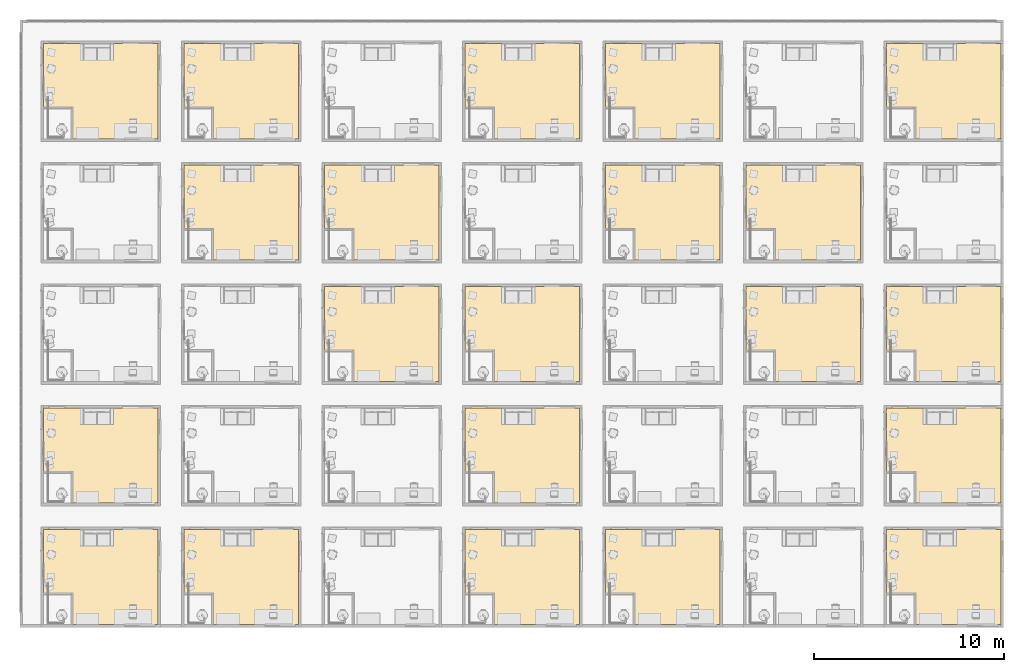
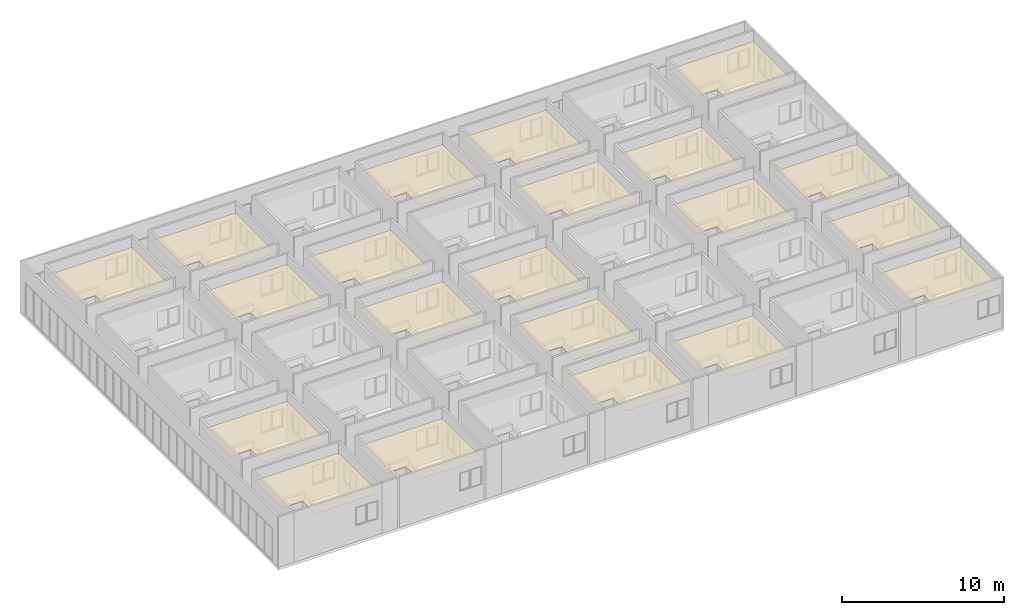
# One storey, part 13 of 72: 21 coverings.
"""IFC4 building model written with IfcOpenShell, lengths in centimetres."""

from ifc_helpers import new_model, entity, si_unit, converted_unit, derived_unit, direction, frame, origin, place, context, subcontext, project, spatial, polygons, type_object, element, save


model = new_model("IFC4")

# Units and contexts
model_context = context("Model", 3, precision=0.001, world=origin(), true_north=direction((6.123233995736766e-17, 1.0)))
body_context = subcontext(model_context, "Body", "Model", "MODEL_VIEW")
ifc_project = project(units=[si_unit("LENGTHUNIT", "METRE", prefix="CENTI"), si_unit("AREAUNIT", "SQUARE_METRE"), si_unit("VOLUMEUNIT", "CUBIC_METRE"), derived_unit("THERMALTRANSMITTANCEUNIT", [(si_unit("MASSUNIT", "GRAM", prefix="KILO"), 1), (si_unit("THERMODYNAMICTEMPERATUREUNIT", "KELVIN"), -1), (si_unit("TIMEUNIT", "SECOND"), -3)]), converted_unit("PLANEANGLEUNIT", "DEGREE", entity("IfcPlaneAngleMeasure", 0.017453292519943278), si_unit("PLANEANGLEUNIT", "RADIAN"), dimensions=[0, 0, 0, 0, 0, 0, 0]), derived_unit("MASSDENSITYUNIT", [(si_unit("MASSUNIT", "GRAM", prefix="KILO"), 1), (si_unit("LENGTHUNIT", "METRE"), -3)]), derived_unit("VAPORPERMEABILITYUNIT", [(si_unit("LENGTHUNIT", "METRE"), -1), (si_unit("TIMEUNIT", "SECOND"), 1)]), derived_unit("USERDEFINED", [(si_unit("MASSUNIT", "GRAM", prefix="KILO"), 1), (si_unit("TIMEUNIT", "SECOND"), -3), (si_unit("LENGTHUNIT", "METRE"), 3), (si_unit("ELECTRICCURRENTUNIT", "AMPERE"), -2)]), derived_unit("SPECIFICHEATCAPACITYUNIT", [(si_unit("THERMODYNAMICTEMPERATUREUNIT", "KELVIN"), -1), (si_unit("LENGTHUNIT", "METRE"), 2), (si_unit("TIMEUNIT", "SECOND"), -2)]), derived_unit("THERMALCONDUCTANCEUNIT", [(si_unit("MASSUNIT", "GRAM", prefix="KILO"), 1), (si_unit("THERMODYNAMICTEMPERATUREUNIT", "KELVIN"), -1), (si_unit("TIMEUNIT", "SECOND"), -3), (si_unit("LENGTHUNIT", "METRE"), 1)]), si_unit("PRESSUREUNIT", "PASCAL"), derived_unit("MODULUSOFELASTICITYUNIT", [(si_unit("MASSUNIT", "GRAM", prefix="KILO"), 1), (si_unit("LENGTHUNIT", "METRE"), -1), (si_unit("TIMEUNIT", "SECOND"), -2)]), derived_unit("THERMALEXPANSIONCOEFFICIENTUNIT", [(si_unit("THERMODYNAMICTEMPERATUREUNIT", "KELVIN"), -1)])], contexts=[model_context])

# Site, building, storey
site_placement = place(None, origin())
site = spatial("IfcSite", under=ifc_project, at=site_placement, Name="Default", CompositionType="ELEMENT")
building_placement = place(site_placement, origin())
building = spatial("IfcBuilding", under=site, at=building_placement, Name="IDS Escape Game Building", CompositionType="ELEMENT")
storey_placement = place(building_placement, frame((0.0, 0.0, 800.0)))
storey = spatial("IfcBuildingStorey", under=building, at=storey_placement, Name="02_Second Floor", CompositionType="ELEMENT", Elevation=800.0)

# Coverings
covering_type = type_object("IfcCoveringType", Name="Basic Ceiling:ARC_45_CEI_SB_PLxx_gen_BERSnl", PredefinedType="CEILING")
for number, where, name in (
    (1, (7.0, 13.0, 300.0), "Basic Ceiling:ARC_45_CEI_SB_PLxx_gen_BERSnl"),
    (2, (745.0, 13.0, 300.0), "Basic Ceiling:ARC_45_CEI_SB_PLxx_gen_BERSnl"),
):
    element("IfcCovering", number, at=place(storey_placement, frame(where)), inside=storey, type_object=covering_type, Name=name, ObjectType="Basic Ceiling:ARC_45_CEI_SB_PLxx_gen_BERSnl", PredefinedType="CEILING", context=body_context, shape_type="Tessellation", body=[
        polygons([(600.0, 500.0, 0.0), (0.0, 500.0, 0.0), (0.0, 158.00000000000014, 0.0), (144.99999999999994, 158.00000000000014, 0.0), (144.99999999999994, 0.0, 0.0), (600.0, 0.0, 0.0)], [[[1, 2, 3, 4, 5, 6]]], closed=False),
    ])
for number, where, name in (
    (3, (2221.0, 13.0, 300.0), "Basic Ceiling:ARC_45_CEI_SB_PLxx_gen_BERSnl"),
    (4, (2959.0, 13.0, 300.0), "Basic Ceiling:ARC_45_CEI_SB_PLxx_gen_BERSnl"),
):
    element("IfcCovering", number, at=place(storey_placement, frame(where)), inside=storey, type_object=covering_type, Name=name, ObjectType="Basic Ceiling:ARC_45_CEI_SB_PLxx_gen_BERSnl", PredefinedType="CEILING", context=body_context, shape_type="Tessellation", body=[
        polygons([(600.0000000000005, 500.0, 0.0), (8.662937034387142e-13, 500.0, 0.0), (4.331468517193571e-13, 158.00000000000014, 0.0), (145.00000000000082, 158.00000000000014, 0.0), (145.00000000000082, 0.0, 0.0), (600.0000000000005, 0.0, 0.0)], [[[1, 2, 3, 4, 5, 6]]], closed=False),
    ])
covering_1_placement = place(storey_placement, frame((4435.0, 13.0, 300.0)))
element("IfcCovering", 5, at=covering_1_placement, inside=storey, type_object=covering_type, Name="Basic Ceiling:ARC_45_CEI_SB_PLxx_gen_BERSnl", ObjectType="Basic Ceiling:ARC_45_CEI_SB_PLxx_gen_BERSnl", PredefinedType="CEILING", context=body_context, shape_type="Tessellation", body=[
    polygons([(600.0000000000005, 500.0, 0.0), (0.0, 500.0, 0.0), (0.0, 158.00000000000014, 0.0), (144.99999999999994, 158.00000000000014, 0.0), (144.99999999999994, 0.0, 0.0), (600.0000000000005, 0.0, 0.0)], [[[1, 2, 3, 4, 5, 6]]], closed=False),
])
covering_2_placement = place(storey_placement, frame((7.0, 651.0, 300.0)))
element("IfcCovering", 6, at=covering_2_placement, inside=storey, type_object=covering_type, Name="Basic Ceiling:ARC_45_CEI_SB_PLxx_gen_BERSnl", ObjectType="Basic Ceiling:ARC_45_CEI_SB_PLxx_gen_BERSnl", PredefinedType="CEILING", context=body_context, shape_type="Tessellation", body=[
    polygons([(600.0, 499.99999999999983, 0.0), (0.0, 499.99999999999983, 0.0), (0.0, 157.99999999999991, 0.0), (145.0, 157.99999999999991, 0.0), (145.0, -1.0828671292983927e-13, 0.0), (600.0, -1.0828671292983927e-13, 0.0)], [[[1, 2, 3, 4, 5, 6]]], closed=False),
])
covering_3_placement = place(storey_placement, frame((2221.0, 651.0, 300.0)))
element("IfcCovering", 7, at=covering_3_placement, inside=storey, type_object=covering_type, Name="Basic Ceiling:ARC_45_CEI_SB_PLxx_gen_BERSnl", ObjectType="Basic Ceiling:ARC_45_CEI_SB_PLxx_gen_BERSnl", PredefinedType="CEILING", context=body_context, shape_type="Tessellation", body=[
    polygons([(600.0000000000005, 499.99999999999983, 0.0), (8.662937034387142e-13, 499.99999999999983, 0.0), (4.331468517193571e-13, 157.99999999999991, 0.0), (145.00000000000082, 157.99999999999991, 0.0), (145.00000000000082, -1.0828671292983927e-13, 0.0), (600.0000000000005, -1.0828671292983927e-13, 0.0)], [[[1, 2, 3, 4, 5, 6]]], closed=False),
])
covering_4_placement = place(storey_placement, frame((4435.0, 651.0, 300.0)))
element("IfcCovering", 8, at=covering_4_placement, inside=storey, type_object=covering_type, Name="Basic Ceiling:ARC_45_CEI_SB_PLxx_gen_BERSnl", ObjectType="Basic Ceiling:ARC_45_CEI_SB_PLxx_gen_BERSnl", PredefinedType="CEILING", context=body_context, shape_type="Tessellation", body=[
    polygons([(600.0000000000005, 499.99999999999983, 0.0), (0.0, 499.99999999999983, 0.0), (0.0, 157.99999999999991, 0.0), (144.99999999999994, 157.99999999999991, 0.0), (144.99999999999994, -1.0828671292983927e-13, 0.0), (600.0000000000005, -1.0828671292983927e-13, 0.0)], [[[1, 2, 3, 4, 5, 6]]], closed=False),
])
covering_5_placement = place(storey_placement, frame((1483.0, 1289.0, 300.0)))
element("IfcCovering", 9, at=covering_5_placement, inside=storey, type_object=covering_type, Name="Basic Ceiling:ARC_45_CEI_SB_PLxx_gen_BERSnl", ObjectType="Basic Ceiling:ARC_45_CEI_SB_PLxx_gen_BERSnl", PredefinedType="CEILING", context=body_context, shape_type="Tessellation", body=[
    polygons([(600.0000000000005, 500.0, 0.0), (2.1657342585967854e-13, 500.0, 0.0), (2.1657342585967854e-13, 158.00000000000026, 0.0), (145.00000000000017, 158.00000000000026, 0.0), (145.00000000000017, 0.0, 0.0), (600.0000000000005, 0.0, 0.0)], [[[1, 2, 3, 4, 5, 6]]], closed=False),
])
covering_6_placement = place(storey_placement, frame((2221.0, 1289.0, 300.0)))
element("IfcCovering", 10, at=covering_6_placement, inside=storey, type_object=covering_type, Name="Basic Ceiling:ARC_45_CEI_SB_PLxx_gen_BERSnl", ObjectType="Basic Ceiling:ARC_45_CEI_SB_PLxx_gen_BERSnl", PredefinedType="CEILING", context=body_context, shape_type="Tessellation", body=[
    polygons([(600.0000000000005, 500.0, 0.0), (8.662937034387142e-13, 500.0, 0.0), (4.331468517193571e-13, 158.00000000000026, 0.0), (145.00000000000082, 158.00000000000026, 0.0), (145.00000000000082, 0.0, 0.0), (600.0000000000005, 0.0, 0.0)], [[[1, 2, 3, 4, 5, 6]]], closed=False),
])
for number, where, name in (
    (11, (3697.0, 1289.0, 300.0), "Basic Ceiling:ARC_45_CEI_SB_PLxx_gen_BERSnl"),
    (12, (4435.0, 1289.0, 300.0), "Basic Ceiling:ARC_45_CEI_SB_PLxx_gen_BERSnl"),
):
    element("IfcCovering", number, at=place(storey_placement, frame(where)), inside=storey, type_object=covering_type, Name=name, ObjectType="Basic Ceiling:ARC_45_CEI_SB_PLxx_gen_BERSnl", PredefinedType="CEILING", context=body_context, shape_type="Tessellation", body=[
        polygons([(600.0000000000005, 500.0, 0.0), (0.0, 500.0, 0.0), (0.0, 158.00000000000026, 0.0), (144.99999999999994, 158.00000000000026, 0.0), (144.99999999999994, 0.0, 0.0), (600.0000000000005, 0.0, 0.0)], [[[1, 2, 3, 4, 5, 6]]], closed=False),
    ])
covering_7_placement = place(storey_placement, frame((745.0, 1927.0, 300.0)))
element("IfcCovering", 13, at=covering_7_placement, inside=storey, type_object=covering_type, Name="Basic Ceiling:ARC_45_CEI_SB_PLxx_gen_BERSnl", ObjectType="Basic Ceiling:ARC_45_CEI_SB_PLxx_gen_BERSnl", PredefinedType="CEILING", context=body_context, shape_type="Tessellation", body=[
    polygons([(600.0, 499.99999999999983, 0.0), (0.0, 499.99999999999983, 0.0), (0.0, 158.00000000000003, 0.0), (144.99999999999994, 158.00000000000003, 0.0), (144.99999999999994, 0.0, 0.0), (600.0, 0.0, 0.0)], [[[1, 2, 3, 4, 5, 6]]], closed=False),
])
covering_8_placement = place(storey_placement, frame((1483.0, 1927.0, 300.0)))
element("IfcCovering", 14, at=covering_8_placement, inside=storey, type_object=covering_type, Name="Basic Ceiling:ARC_45_CEI_SB_PLxx_gen_BERSnl", ObjectType="Basic Ceiling:ARC_45_CEI_SB_PLxx_gen_BERSnl", PredefinedType="CEILING", context=body_context, shape_type="Tessellation", body=[
    polygons([(600.0000000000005, 499.99999999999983, 0.0), (2.1657342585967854e-13, 499.99999999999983, 0.0), (2.1657342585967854e-13, 158.00000000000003, 0.0), (145.00000000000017, 158.00000000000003, 0.0), (145.00000000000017, 0.0, 0.0), (600.0000000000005, 0.0, 0.0)], [[[1, 2, 3, 4, 5, 6]]], closed=False),
])
covering_9_placement = place(storey_placement, frame((2959.0, 1927.0, 300.0)))
element("IfcCovering", 15, at=covering_9_placement, inside=storey, type_object=covering_type, Name="Basic Ceiling:ARC_45_CEI_SB_PLxx_gen_BERSnl", ObjectType="Basic Ceiling:ARC_45_CEI_SB_PLxx_gen_BERSnl", PredefinedType="CEILING", context=body_context, shape_type="Tessellation", body=[
    polygons([(600.0000000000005, 499.99999999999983, 0.0), (8.662937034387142e-13, 499.99999999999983, 0.0), (4.331468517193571e-13, 158.00000000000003, 0.0), (145.00000000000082, 158.00000000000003, 0.0), (145.00000000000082, 0.0, 0.0), (600.0000000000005, 0.0, 0.0)], [[[1, 2, 3, 4, 5, 6]]], closed=False),
])
covering_10_placement = place(storey_placement, frame((3697.0, 1927.0, 300.0)))
element("IfcCovering", 16, at=covering_10_placement, inside=storey, type_object=covering_type, Name="Basic Ceiling:ARC_45_CEI_SB_PLxx_gen_BERSnl", ObjectType="Basic Ceiling:ARC_45_CEI_SB_PLxx_gen_BERSnl", PredefinedType="CEILING", context=body_context, shape_type="Tessellation", body=[
    polygons([(600.0000000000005, 499.99999999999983, 0.0), (0.0, 499.99999999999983, 0.0), (0.0, 158.00000000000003, 0.0), (144.99999999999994, 158.00000000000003, 0.0), (144.99999999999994, 0.0, 0.0), (600.0000000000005, 0.0, 0.0)], [[[1, 2, 3, 4, 5, 6]]], closed=False),
])
for number, where, name in (
    (17, (7.0, 2565.0, 300.0), "Basic Ceiling:ARC_45_CEI_SB_PLxx_gen_BERSnl"),
    (18, (745.0, 2565.0, 300.0), "Basic Ceiling:ARC_45_CEI_SB_PLxx_gen_BERSnl"),
):
    element("IfcCovering", number, at=place(storey_placement, frame(where)), inside=storey, type_object=covering_type, Name=name, ObjectType="Basic Ceiling:ARC_45_CEI_SB_PLxx_gen_BERSnl", PredefinedType="CEILING", context=body_context, shape_type="Tessellation", body=[
        polygons([(600.0, 499.99999999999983, 0.0), (0.0, 499.99999999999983, 0.0), (0.0, 158.00000000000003, 0.0), (144.99999999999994, 158.00000000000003, 0.0), (144.99999999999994, 0.0, 0.0), (600.0, 0.0, 0.0)], [[[1, 2, 3, 4, 5, 6]]], closed=False),
    ])
for number, where, name in (
    (19, (2221.0, 2565.0, 300.0), "Basic Ceiling:ARC_45_CEI_SB_PLxx_gen_BERSnl"),
    (20, (2959.0, 2565.0, 300.0), "Basic Ceiling:ARC_45_CEI_SB_PLxx_gen_BERSnl"),
):
    element("IfcCovering", number, at=place(storey_placement, frame(where)), inside=storey, type_object=covering_type, Name=name, ObjectType="Basic Ceiling:ARC_45_CEI_SB_PLxx_gen_BERSnl", PredefinedType="CEILING", context=body_context, shape_type="Tessellation", body=[
        polygons([(600.0000000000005, 499.99999999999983, 0.0), (8.662937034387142e-13, 499.99999999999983, 0.0), (4.331468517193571e-13, 158.00000000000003, 0.0), (145.00000000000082, 158.00000000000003, 0.0), (145.00000000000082, 0.0, 0.0), (600.0000000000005, 0.0, 0.0)], [[[1, 2, 3, 4, 5, 6]]], closed=False),
    ])
covering_11_placement = place(storey_placement, frame((4435.0, 2565.0, 300.0)))
element("IfcCovering", 21, at=covering_11_placement, inside=storey, type_object=covering_type, Name="Basic Ceiling:ARC_45_CEI_SB_PLxx_gen_BERSnl", ObjectType="Basic Ceiling:ARC_45_CEI_SB_PLxx_gen_BERSnl", PredefinedType="CEILING", context=body_context, shape_type="Tessellation", body=[
    polygons([(600.0000000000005, 499.99999999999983, 0.0), (0.0, 499.99999999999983, 0.0), (0.0, 158.00000000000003, 0.0), (144.99999999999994, 158.00000000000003, 0.0), (144.99999999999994, 0.0, 0.0), (600.0000000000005, 0.0, 0.0)], [[[1, 2, 3, 4, 5, 6]]], closed=False),
])

save(model, "model.ifc")
